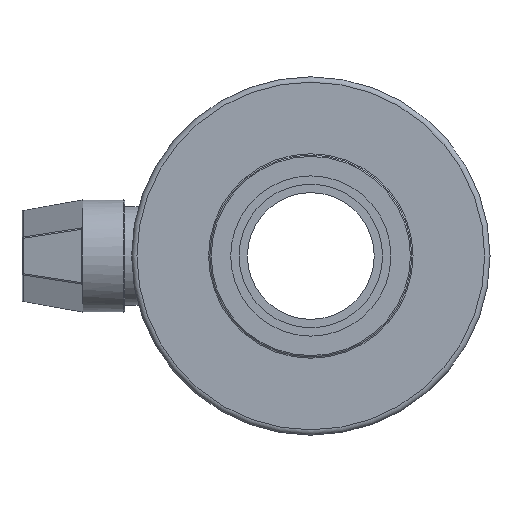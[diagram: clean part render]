
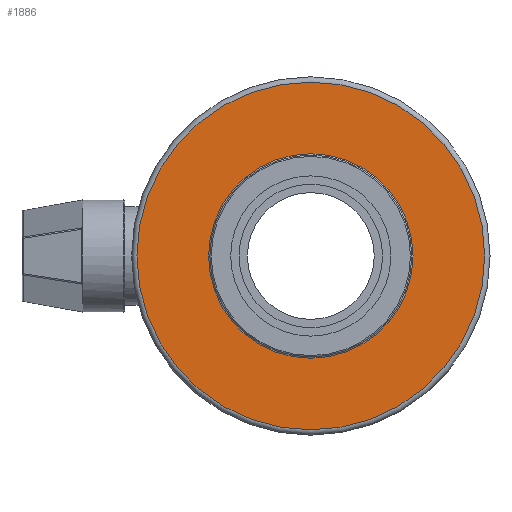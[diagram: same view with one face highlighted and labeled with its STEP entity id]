
A CAD part, left-side view. The second image highlights one B-rep face of the part: STEP entity #1886.
In plain terms, the highlighted planar face has unit normal (-1, 0, 0).
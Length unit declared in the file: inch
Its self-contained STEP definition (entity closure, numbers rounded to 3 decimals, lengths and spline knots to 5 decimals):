
#168 = EDGE_LOOP ( 'NONE', ( #1594 ) ) ;
#201 = FACE_OUTER_BOUND ( 'NONE', #168, .T. ) ;
#220 = CARTESIAN_POINT ( 'NONE',  ( -2.64375, 0., -2.57751 ) ) ;
#354 = EDGE_CURVE ( 'NONE', #1875, #1875, #1259, .T. ) ;
#786 = DIRECTION ( 'NONE',  ( -1., 0., 0. ) ) ;
#826 = CARTESIAN_POINT ( 'NONE',  ( -2.64375, 0., -1.51569 ) ) ;
#833 = PLANE ( 'NONE',  #1828 ) ;
#1074 = DIRECTION ( 'NONE',  ( 0., 0., -1. ) ) ;
#1259 = CIRCLE ( 'NONE', #1613, 1.51569 ) ;
#1282 = DIRECTION ( 'NONE',  ( 1., 0., 0. ) ) ;
#1320 = ORIENTED_EDGE ( 'NONE', *, *, #354, .T. ) ;
#1460 = CARTESIAN_POINT ( 'NONE',  ( -2.64375, 1.496, 0. ) ) ;
#1475 = CIRCLE ( 'NONE', #1688, 2.57751 ) ;
#1594 = ORIENTED_EDGE ( 'NONE', *, *, #2507, .T. ) ;
#1613 = AXIS2_PLACEMENT_3D ( 'NONE', #1977, #1282, #1074 ) ;
#1688 = AXIS2_PLACEMENT_3D ( 'NONE', #2644, #786, #2010 ) ;
#1828 = AXIS2_PLACEMENT_3D ( 'NONE', #1460, #1881, #2279 ) ;
#1866 = FACE_BOUND ( 'NONE', #2377, .T. ) ;
#1875 = VERTEX_POINT ( 'NONE', #826 ) ;
#1881 = DIRECTION ( 'NONE',  ( 1., 0., 0. ) ) ;
#1886 = ADVANCED_FACE ( 'NONE', ( #201, #1866 ), #833, .F. ) ;
#1977 = CARTESIAN_POINT ( 'NONE',  ( -2.64375, 0., 0. ) ) ;
#2010 = DIRECTION ( 'NONE',  ( 0., 0., -1. ) ) ;
#2279 = DIRECTION ( 'NONE',  ( 0., 0., -1. ) ) ;
#2281 = VERTEX_POINT ( 'NONE', #220 ) ;
#2377 = EDGE_LOOP ( 'NONE', ( #1320 ) ) ;
#2507 = EDGE_CURVE ( 'NONE', #2281, #2281, #1475, .T. ) ;
#2644 = CARTESIAN_POINT ( 'NONE',  ( -2.64375, 0., 0. ) ) ;
